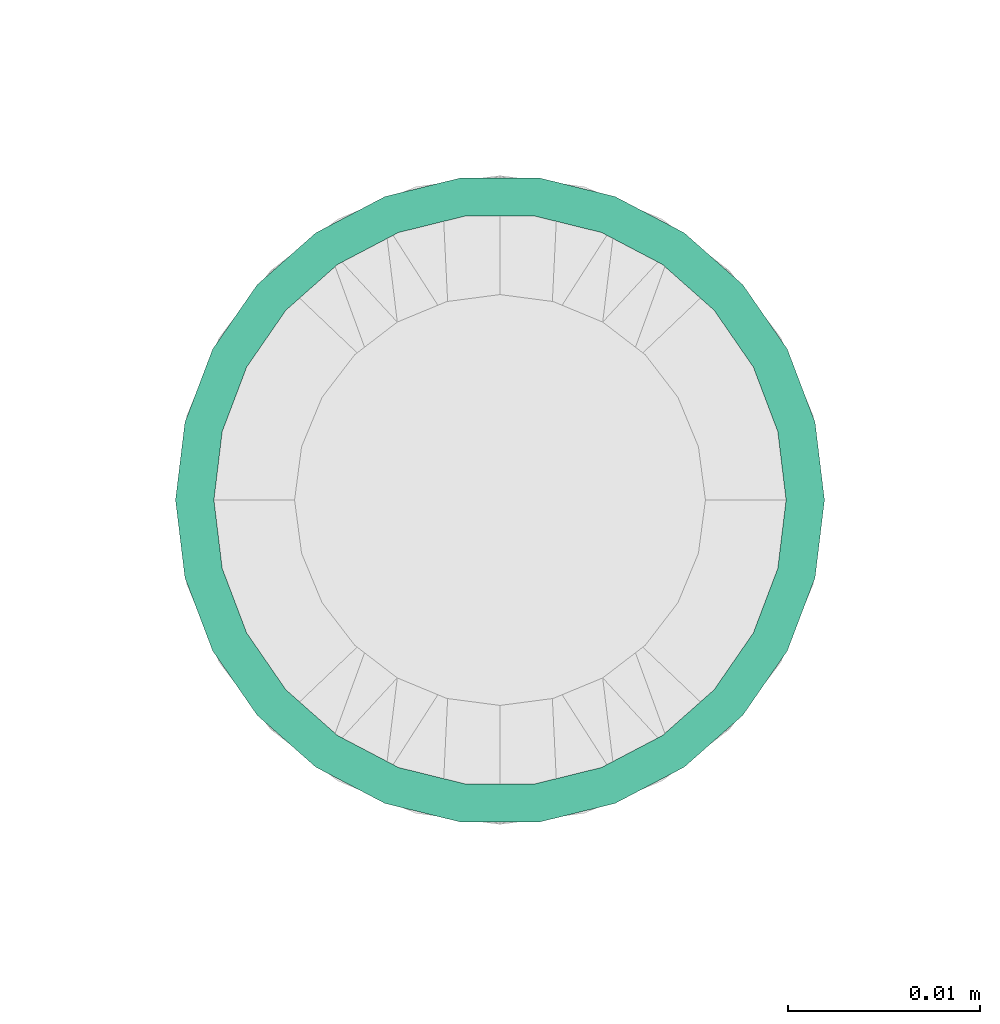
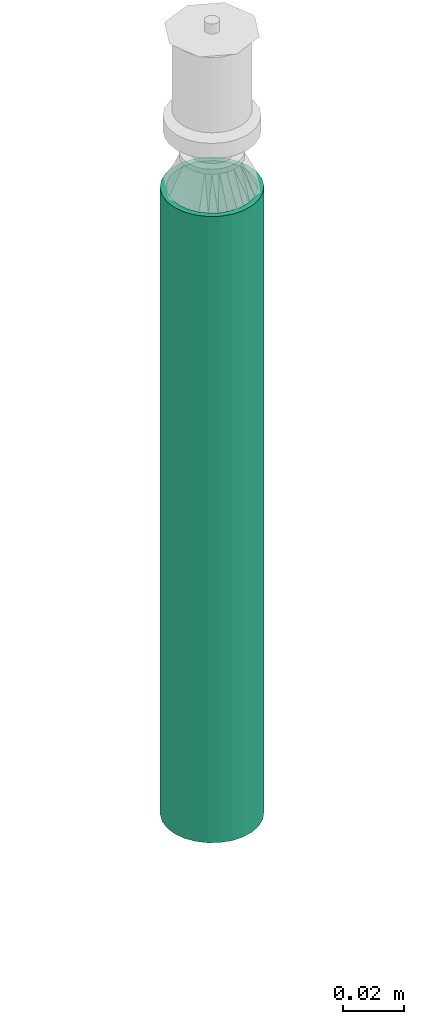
# One storey, part 2 of 94: 1 flow segment.
"""IFC2X3 building model written with IfcOpenShell, lengths in millimetres."""

from ifc_helpers import new_model, entity, si_unit, converted_unit, derived_unit, direction, frame, origin_with_axes, origin_2d_with_axis, place, context, subcontext, project, spatial, hollow_circle, extrude, source, transform, mapped, type_object, element, save


model = new_model("IFC2X3")

# Units and contexts
model_context = context("Model", 3, precision=0.01, world=frame((0.0, 4.29681676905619e-09, 0.0)), true_north=direction((4.01073788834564e-13, 1.0)))
plan_context = context("Plan", 3, precision=0.01, world=frame((0.0, 4.29681676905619e-09, 0.0)), true_north=direction((4.01073788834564e-13, 1.0)))
body_context = subcontext(model_context, "Body", "Model", "MODEL_VIEW")
ifc_project = project(units=[converted_unit("PLANEANGLEUNIT", "DEGREE", entity("IfcPositiveLengthMeasure", 0.0174532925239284), si_unit("PLANEANGLEUNIT", "RADIAN"), dimensions=[0, 0, 0, 0, 0, 0, 0]), si_unit("AREAUNIT", "SQUARE_METRE"), si_unit("LENGTHUNIT", "METRE", prefix="MILLI"), si_unit("MASSUNIT", "GRAM", prefix="KILO"), si_unit("POWERUNIT", "WATT"), si_unit("PRESSUREUNIT", "PASCAL"), si_unit("FORCEUNIT", "NEWTON", prefix="KILO"), si_unit("ELECTRICCURRENTUNIT", "AMPERE"), si_unit("THERMODYNAMICTEMPERATUREUNIT", "DEGREE_CELSIUS"), si_unit("TIMEUNIT", "SECOND"), si_unit("VOLUMEUNIT", "CUBIC_METRE"), derived_unit("LINEARVELOCITYUNIT", [(si_unit("LENGTHUNIT", "METRE"), 1), (si_unit("TIMEUNIT", "SECOND"), -1)]), derived_unit("VOLUMETRICFLOWRATEUNIT", [(si_unit("VOLUMEUNIT", "CUBIC_METRE"), 1), (si_unit("TIMEUNIT", "SECOND"), -1)]), derived_unit("THERMALTRANSMITTANCEUNIT", [(si_unit("POWERUNIT", "WATT"), 1), (si_unit("THERMODYNAMICTEMPERATUREUNIT", "KELVIN"), -1), (si_unit("AREAUNIT", "SQUARE_METRE"), -1)])], contexts=[model_context, plan_context])

# Site, building, storey
site_placement = place(None, frame((0.0, -4.29681676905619e-09, 0.0), z_axis=(0.0, 0.0, 1.0), x_axis=(1.0, 0.0, 0.0)))
site = spatial("IfcSite", under=ifc_project, at=site_placement, CompositionType="ELEMENT")
building_placement = place(site_placement, frame((0.0, 4.29681676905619e-09, 0.0), z_axis=(0.0, 0.0, 1.0), x_axis=(1.0, 0.0, 0.0)))
building = spatial("IfcBuilding", under=site, at=building_placement, Name="mc-building", CompositionType="ELEMENT")
storey_placement = place(building_placement, frame((0.0, 0.0, 200300.0), z_axis=(0.0, 0.0, 1.0), x_axis=(1.0, 0.0, 0.0)))
storey = spatial("IfcBuildingStorey", under=building, at=storey_placement, Name="Nivå C", CompositionType="ELEMENT", Elevation=200300.0)

# Flow segment
pipe_segment_type = type_object("IfcPipeSegmentType", Name="Stålrør normaltykke", PredefinedType="RIGIDSEGMENT")
shared_shape = source(origin_with_axes(), body_context, "Body", "SweptSolid", [
    extrude(hollow_circle(Radius=16.9, WallThickness=2.0, at=origin_2d_with_axis()), frame((0.0, 0.0, 0.0), z_axis=(1.0, 0.0, 0.0), x_axis=(0.0, 1.0, 0.0)), (0.0, 0.0, 1.0), 248.8),
])
flow_segment_placement = place(storey_placement, frame((516401.31443, 406256.49509, 2713.79999999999), z_axis=(0.0, -1.0, 0.0), x_axis=(0.0, 0.0, 1.0)))
element("IfcFlowSegment", 1, at=flow_segment_placement, inside=storey, type_object=pipe_segment_type, Name="Stålrør normaltykke", context=body_context, shape_type="MappedRepresentation", body=[
    mapped(shared_shape, transform((0.0, 0.0, 0.0), scale=1.0)),
])

save(model, "model.ifc")
